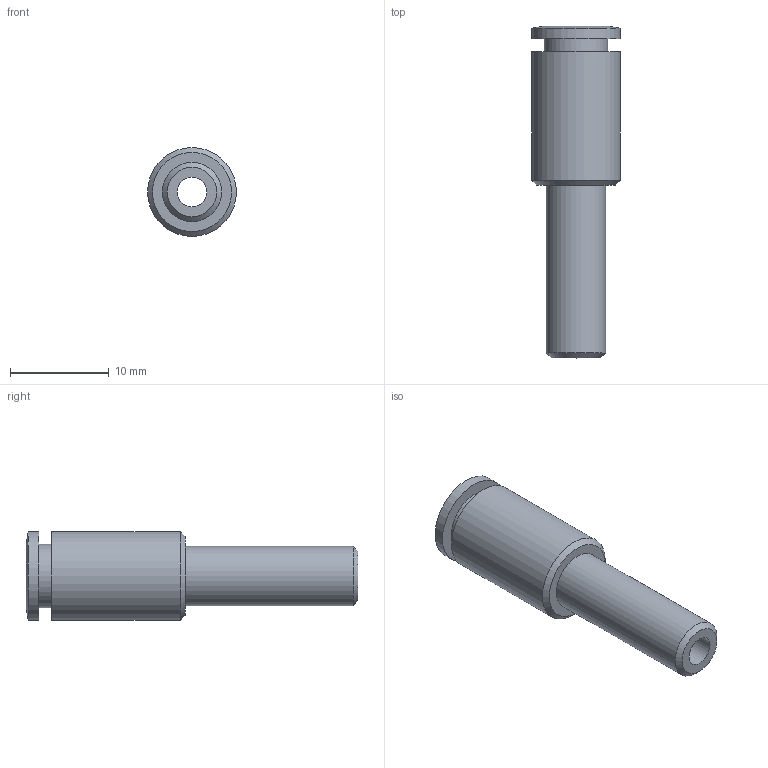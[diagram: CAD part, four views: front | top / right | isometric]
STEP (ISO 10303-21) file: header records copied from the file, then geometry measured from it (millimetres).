
FILE_DESCRIPTION((''),'2;1');
FILE_NAME('C:\Documents and Settings\rivolro1\Documenti\copia di Raccordi\PLASTICA\T08XXXX\T080604.stp','2007-10-30T17:04:48',('Rivolro1'),(''),'Autodesk Inventor 2008','Autodesk Inventor 2008','');
FILE_SCHEMA(('AUTOMOTIVE_DESIGN { 1 0 10303 214 1 1 1 1 }'));
Length unit declared in the file: millimetre
Products named in the file (1): T080604
Bounding box: 9 x 33.6 x 9 mm (x, y, z)
Volume: 1128.7 mm3; surface area: 1303.6 mm2
Topology: 1 solids, 1 shells, 15 faces, 24 edges, 15 vertices
Faces by surface type: plane 5, cylinder 5, cone 3, bspline 2
Full cylindrical faces by diameter (mm): 3 x1, 6 x1, 6.4 x1, 9 x2
Entity records: 363 total; most frequent: CARTESIAN_POINT 66, DIRECTION 58, ORIENTED_EDGE 30, EDGE_LOOP 30, AXIS2_PLACEMENT_3D 29, VERTEX_POINT 15, CIRCLE 15, EDGE_CURVE 15
